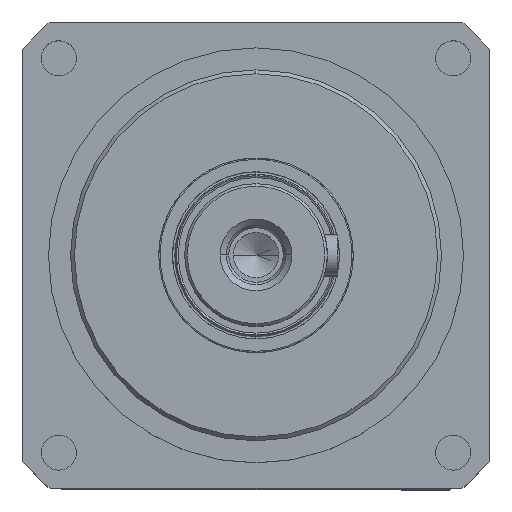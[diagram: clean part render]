
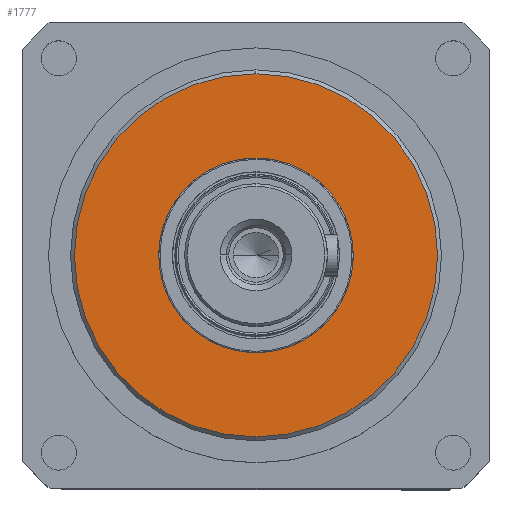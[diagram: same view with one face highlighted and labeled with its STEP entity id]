
A CAD part, top view. The second image highlights one B-rep face of the part: STEP entity #1777.
In plain terms, the highlighted planar face has unit normal (0, 0, 1).
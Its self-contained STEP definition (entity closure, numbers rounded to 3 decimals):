
#1017 = CARTESIAN_POINT ( 'NONE',  ( 0., 0., 0. ) ) ;
#1524 = ORIENTED_EDGE ( 'NONE', *, *, #12610, .F. ) ;
#1777 = ADVANCED_FACE ( 'b?', ( #5543, #7687 ), #2991, .F. ) ;
#1868 = DIRECTION ( 'NONE',  ( 0., 0., 1. ) ) ;
#2966 = VERTEX_POINT ( 'NONE', #4626 ) ;
#2991 = PLANE ( 'NONE',  #10899 ) ;
#3522 = AXIS2_PLACEMENT_3D ( 'NONE', #10788, #14385, #7177 ) ;
#3570 = CIRCLE ( 'NONE', #9221, 70. ) ;
#3774 = VERTEX_POINT ( 'NONE', #7551 ) ;
#4626 = CARTESIAN_POINT ( 'NONE',  ( -37.5, 0., 0. ) ) ;
#5125 = AXIS2_PLACEMENT_3D ( 'NONE', #6838, #1868, #8159 ) ;
#5543 = FACE_OUTER_BOUND ( 'NONE', #9683, .T. ) ;
#5794 = DIRECTION ( 'NONE',  ( 0., 0., -1. ) ) ;
#6182 = AXIS2_PLACEMENT_3D ( 'NONE', #12474, #11475, #10173 ) ;
#6595 = CARTESIAN_POINT ( 'NONE',  ( 0., 70., 0. ) ) ;
#6838 = CARTESIAN_POINT ( 'NONE',  ( 0., 0., 0. ) ) ;
#7177 = DIRECTION ( 'NONE',  ( 0., 1., 0. ) ) ;
#7551 = CARTESIAN_POINT ( 'NONE',  ( 37.5, 0., 0. ) ) ;
#7687 = FACE_BOUND ( 'NONE', #8294, .T. ) ;
#7699 = EDGE_CURVE ( 'NONE', #13517, #10701, #3570, .T. ) ;
#8159 = DIRECTION ( 'NONE',  ( 1., 0., 0. ) ) ;
#8166 = EDGE_CURVE ( 'NONE', #10701, #13517, #13226, .T. ) ;
#8294 = EDGE_LOOP ( 'NONE', ( #1524, #15004 ) ) ;
#9009 = CIRCLE ( 'NONE', #6182, 37.5 ) ;
#9221 = AXIS2_PLACEMENT_3D ( 'NONE', #1017, #5794, #9665 ) ;
#9632 = CIRCLE ( 'NONE', #5125, 37.5 ) ;
#9665 = DIRECTION ( 'NONE',  ( 0., 1., 0. ) ) ;
#9683 = EDGE_LOOP ( 'NONE', ( #10740, #15215 ) ) ;
#10173 = DIRECTION ( 'NONE',  ( 1., 0., 0. ) ) ;
#10701 = VERTEX_POINT ( 'NONE', #15363 ) ;
#10740 = ORIENTED_EDGE ( 'NONE', *, *, #8166, .F. ) ;
#10788 = CARTESIAN_POINT ( 'NONE',  ( 0., 0., 0. ) ) ;
#10899 = AXIS2_PLACEMENT_3D ( 'NONE', #6595, #15216, #12609 ) ;
#11475 = DIRECTION ( 'NONE',  ( 0., 0., 1. ) ) ;
#12474 = CARTESIAN_POINT ( 'NONE',  ( 0., 0., 0. ) ) ;
#12609 = DIRECTION ( 'NONE',  ( -1., 0., 0. ) ) ;
#12610 = EDGE_CURVE ( 'NONE', #3774, #2966, #9632, .T. ) ;
#12762 = CARTESIAN_POINT ( 'NONE',  ( 0., -70., 0. ) ) ;
#13226 = CIRCLE ( 'NONE', #3522, 70. ) ;
#13517 = VERTEX_POINT ( 'NONE', #12762 ) ;
#14385 = DIRECTION ( 'NONE',  ( 0., 0., -1. ) ) ;
#14568 = EDGE_CURVE ( 'NONE', #2966, #3774, #9009, .T. ) ;
#15004 = ORIENTED_EDGE ( 'NONE', *, *, #14568, .F. ) ;
#15215 = ORIENTED_EDGE ( 'NONE', *, *, #7699, .F. ) ;
#15216 = DIRECTION ( 'NONE',  ( 0., 0., -1. ) ) ;
#15363 = CARTESIAN_POINT ( 'NONE',  ( 0., 70., 0. ) ) ;
